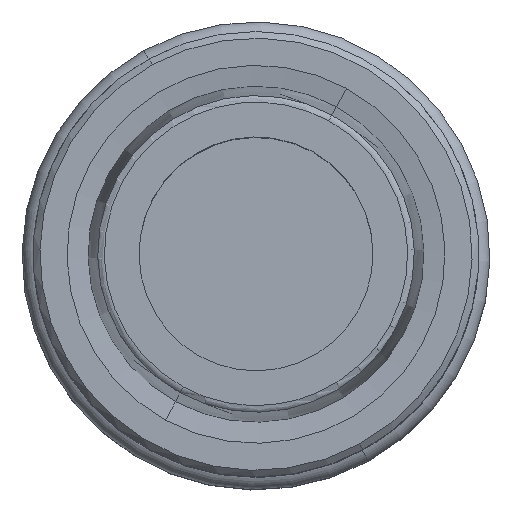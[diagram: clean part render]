
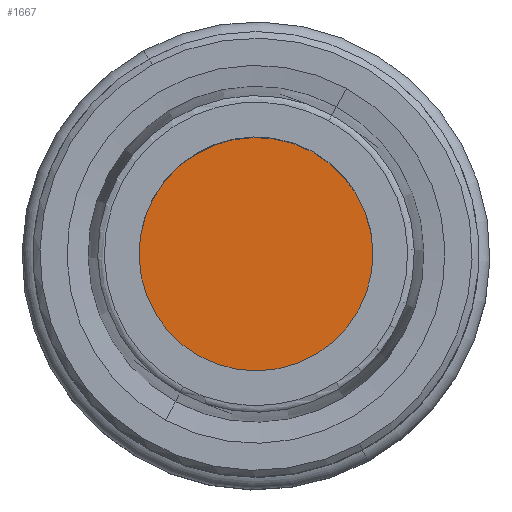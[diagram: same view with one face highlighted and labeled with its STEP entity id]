
A CAD part, top view. The second image highlights one B-rep face of the part: STEP entity #1667.
In plain terms, the highlighted planar face has unit normal (0, 0, 1).
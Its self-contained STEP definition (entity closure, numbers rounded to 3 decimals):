
#1647=AXIS2_PLACEMENT_3D('Plane Axis2P3D',#1644,#1645,#1646) ;
#1651=AXIS2_PLACEMENT_3D('Circle Axis2P3D',#1649,#1650,$) ;
#1660=AXIS2_PLACEMENT_3D('Circle Axis2P3D',#1658,#1659,$) ;
#1644=CARTESIAN_POINT('Axis2P3D Location',(0.,0.,-8.)) ;
#1649=CARTESIAN_POINT('Axis2P3D Location',(0.,0.,-8.)) ;
#1653=CARTESIAN_POINT('Vertex',(-5.034,-9.215,-8.)) ;
#1655=CARTESIAN_POINT('Vertex',(5.034,9.215,-8.)) ;
#1658=CARTESIAN_POINT('Axis2P3D Location',(0.,0.,-8.)) ;
#1645=DIRECTION('Axis2P3D Direction',(0.,0.,1.)) ;
#1646=DIRECTION('Axis2P3D XDirection',(1.,0.,0.)) ;
#1650=DIRECTION('Axis2P3D Direction',(0.,0.,1.)) ;
#1659=DIRECTION('Axis2P3D Direction',(0.,0.,1.)) ;
#1664=ORIENTED_EDGE('',*,*,#1657,.T.) ;
#1665=ORIENTED_EDGE('',*,*,#1662,.T.) ;
#1667=ADVANCED_FACE('NOCUT',(#1666),#1648,.T.) ;
#1652=CIRCLE('generated circle',#1651,10.5) ;
#1661=CIRCLE('generated circle',#1660,10.5) ;
#1657=EDGE_CURVE('',#1654,#1656,#1652,.T.) ;
#1662=EDGE_CURVE('',#1656,#1654,#1661,.T.) ;
#1663=EDGE_LOOP('',(#1664,#1665)) ;
#1666=FACE_OUTER_BOUND('',#1663,.T.) ;
#1648=PLANE('',#1647) ;
#1654=VERTEX_POINT('',#1653) ;
#1656=VERTEX_POINT('',#1655) ;
